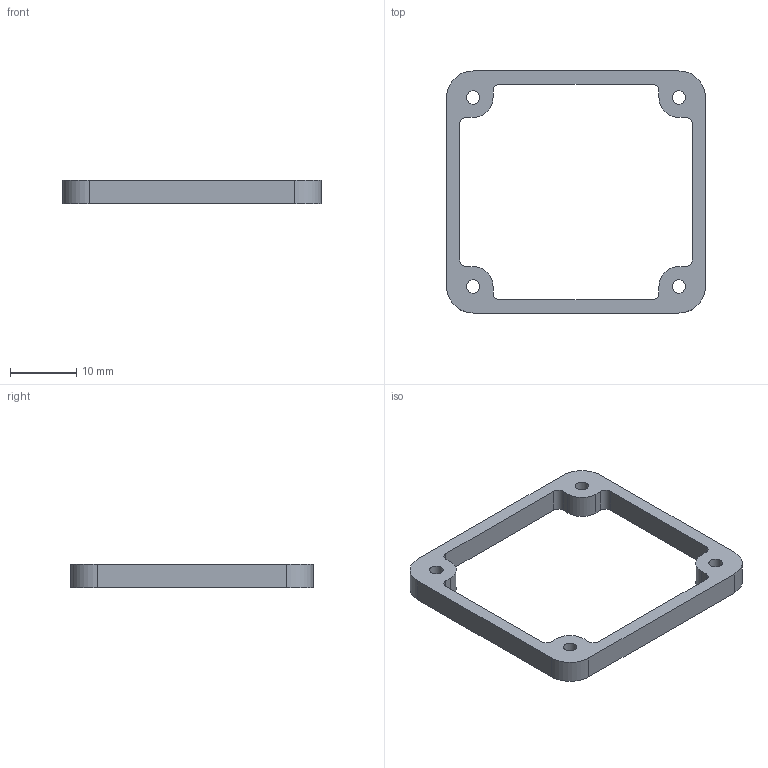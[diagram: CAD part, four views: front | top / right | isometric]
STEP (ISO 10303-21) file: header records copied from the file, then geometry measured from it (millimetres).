
FILE_DESCRIPTION(/* description */ ('VX1710.01A Mounting Frame for XPOD'),/* implementation_level */ '2;1');
FILE_NAME(/* name */ 'C:\Users\TeamCenterSystem\Documents\Inventor\MEC_000248_CUST_iam.STP',/* time_stamp */ '2024-07-23T18:39:35+02:00',/* author */ ('vista'),/* organization */ (''),/* preprocessor_version */ 'ST-DEVELOPER v18.1',/* originating_system */ 'Autodesk Inventor 2022',/* authorisation */ '');
FILE_SCHEMA (('AUTOMOTIVE_DESIGN { 1 0 10303 214 3 1 1 }'));
Length unit declared in the file: millimetre
Products named in the file (2): MEC_000248_CUST; MEC_000248
Assembly tree (1 placements, depth 2):
  MEC_000248_CUST
    MEC_000248
Bounding box: 39 x 36.5 x 3.5 mm (x, y, z)
Volume: 1237.3 mm3; surface area: 1742.5 mm2
Topology: 1 solids, 1 shells, 38 faces, 108 edges, 72 vertices
Faces by surface type: cylinder 20, plane 18
Full cylindrical faces by diameter (mm): 2.013 x4
Entity records: 1339 total; most frequent: DIRECTION 230, CARTESIAN_POINT 221, ORIENTED_EDGE 216, EDGE_CURVE 108, AXIS2_PLACEMENT_3D 81, VERTEX_POINT 72, LINE 68, VECTOR 68
